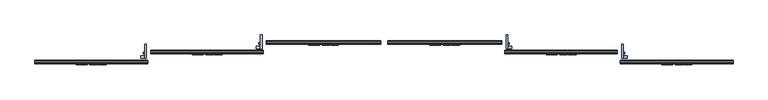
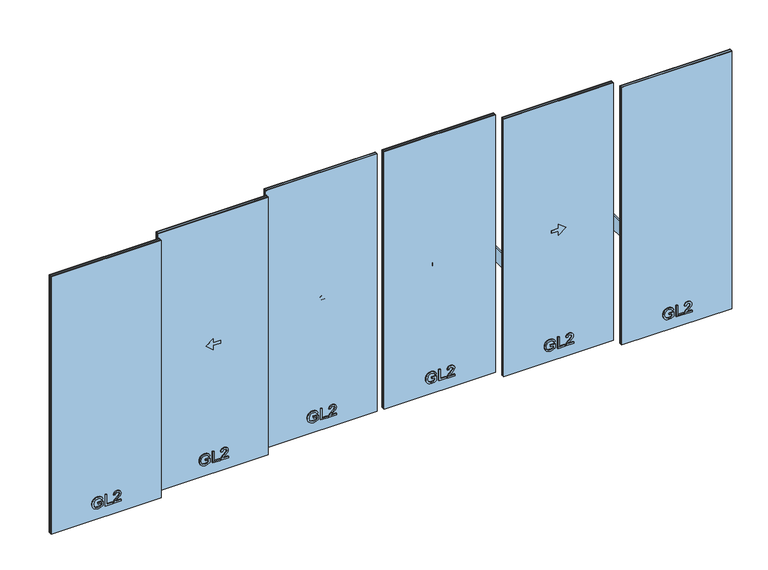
"""IFC4 building model written with IfcOpenShell, lengths in millimetres: window geometry, XL_XHS-9-3E_Metaglas : XL_XHS-9-3E_Metaglas."""

from ifc_helpers import new_model, si_unit, point, frame, frame_2d, origin, place, context, project, spatial, polyline, circle_curve, trimmed, segment, composite_curve, outline, extrude, source, transform, mapped, element, save


def window_fc74b0f0(model_context):
    return source(origin(), model_context, "Body", "SweptSolid", [
        extrude(outline(polyline([(1263.3, 1416.75), (1238.3, 1416.75), (1238.3, 1479.05), (1201.4, 1479.05), (1250.8, 1541.35), (1300.2, 1479.05), (1263.3, 1479.05), (1263.3, 1416.75)])), frame((0.0, 56.8, 0.0), z_axis=(0.0, 1.0, 0.0), x_axis=(0.0, 0.0, 1.0)), (0.0, 0.0, 1.0), 10.0),
        extrude(outline(polyline([(1009.55, 82.8), (1948.55, 82.8), (1948.55, 79.8), (1009.55, 79.8), (1009.55, 82.8)])), frame((0.0, 0.0, 85.6), z_axis=(0.0, 0.0, 1.0), x_axis=(1.0, 0.0, 0.0)), (0.0, 0.0, 1.0), 2330.4),
        extrude(outline(polyline([(1009.55, 85.8), (1948.55, 85.8), (1948.55, 82.8), (1009.55, 82.8), (1009.55, 85.8)])), frame((0.0, 0.0, 85.6), z_axis=(0.0, 0.0, 1.0), x_axis=(1.0, 0.0, 0.0)), (0.0, 0.0, 1.0), 2330.4),
        extrude(outline(polyline([(1009.55, 59.8), (1948.55, 59.8), (1948.55, 56.8), (1009.55, 56.8), (1009.55, 59.8)])), frame((0.0, 0.0, 85.6), z_axis=(0.0, 0.0, 1.0), x_axis=(1.0, 0.0, 0.0)), (0.0, 0.0, 1.0), 2330.4),
        extrude(outline(polyline([(1009.55, 62.8), (1948.55, 62.8), (1948.55, 59.8), (1009.55, 59.8), (1009.55, 62.8)])), frame((0.0, 0.0, 85.6), z_axis=(0.0, 0.0, 1.0), x_axis=(1.0, 0.0, 0.0)), (0.0, 0.0, 1.0), 2330.4),
        extrude(outline(polyline([(224.3483029, 1406.0622122), (224.3483029, 1434.3155494), (206.1994578, 1434.3155494), (199.3200645, 1421.5990951), (196.0949657, 1404.4190059), (200.3746595, 1385.2768794), (213.4712586, 1371.5426183), (235.3602373, 1366.821466), (255.0787122, 1370.7455406), (264.7540087, 1377.208001), (271.8663939, 1388.146359), (274.576458, 1404.2228022), (272.0625977, 1418.3372081), (265.3671454, 1428.1228691), (253.754337, 1433.8495655), (257.0162241, 1445.4255856), (273.6322275, 1437.8349538), (283.5650414, 1424.0639045), (287.1334967, 1404.4190059), (285.5945237, 1390.3291255), (280.9776047, 1377.9805532), (273.1938348, 1367.8423385), (262.1543093, 1360.3835311), (248.9933309, 1355.7942032), (234.8452025, 1354.2644272), (220.7982416, 1355.8003346), (208.1369696, 1360.4080566), (197.5818221, 1368.0293452), (189.8532345, 1378.6059526), (185.1167538, 1391.3377353), (183.5379269, 1405.42455), (187.5110524, 1426.7249176), (199.3568527, 1446.8725882), (236.9053417, 1446.8725882), (236.9053417, 1406.0622122), (224.3483029, 1406.0622122)])), frame((0.0, 46.8, 0.0), z_axis=(0.0, 1.0, 0.0), x_axis=(0.0, 0.0, 1.0)), (0.0, 0.0, 1.0), 10.0),
        extrude(outline(polyline([(185.1075567, 1467.2777762), (185.1075567, 1530.06297), (197.6645955, 1530.06297), (197.6645955, 1479.8348149), (285.5638669, 1479.8348149), (285.5638669, 1467.2777762), (185.1075567, 1467.2777762)])), frame((0.0, 46.8, 0.0), z_axis=(0.0, 1.0, 0.0), x_axis=(0.0, 0.0, 1.0)), (0.0, 0.0, 1.0), 10.0),
        extrude(outline(polyline([(197.6645955, 1603.8355728), (197.6645955, 1554.5148599), (204.0534795, 1560.1802427), (216.1322717, 1574.6257423), (233.3368863, 1592.6151719), (245.6486704, 1600.0341255), (257.5557843, 1602.2659429), (268.506405, 1600.1966067), (277.5195139, 1593.988598), (283.5527787, 1584.2305281), (285.5638669, 1571.5110081), (283.7551137, 1558.8834586), (278.3288543, 1549.1069946), (269.4567669, 1542.5249726), (257.3105297, 1539.4807491), (255.7408998, 1552.0377878), (268.4205659, 1557.3230258), (273.0068281, 1571.241228), (268.3102013, 1584.5953444), (256.7954949, 1589.7089041), (242.5707244, 1584.3010388), (221.6505016, 1562.6327893), (207.0946373, 1546.8997026), (193.7650464, 1539.2600199), (185.1075567, 1537.9111192), (185.1075567, 1603.8355728), (197.6645955, 1603.8355728)])), frame((0.0, 46.8, 0.0), z_axis=(0.0, 1.0, 0.0), x_axis=(0.0, 0.0, 1.0)), (0.0, 0.0, 1.0), 10.0),
        extrude(outline(polyline([(2416.0, 1948.55), (2416.0, 1009.55), (85.6, 1009.55), (85.6, 1948.55), (2416.0, 1948.55)]), holes=[polyline([(98.6, 1935.55), (98.6, 1022.55), (2403.0, 1022.55), (2403.0, 1935.55), (98.6, 1935.55)])]), frame((0.0, 62.8, 0.0), z_axis=(0.0, 1.0, 0.0), x_axis=(0.0, 0.0, 1.0)), (0.0, 0.0, 1.0), 17.0),
        extrude(outline(polyline([(1009.55, 62.8), (1948.55, 62.8), (1948.55, 56.8), (1009.55, 56.8), (1009.55, 62.8)])), frame((0.0, 0.0, 85.6), z_axis=(0.0, 0.0, 1.0), x_axis=(1.0, 0.0, 0.0)), (0.0, 0.0, 1.0), 2330.4),
        extrude(outline(composite_curve([segment(trimmed(circle_curve(frame_2d((27.9933183, 1063.3761618)), 10.0), [point((17.9933183, 1063.3761618))], [point((37.9933183, 1063.3761618))], False, "CARTESIAN"), True, "CONTINUOUS"), segment(trimmed(circle_curve(frame_2d((27.9933183, 1063.3761618)), 10.0), [point((37.9933183, 1063.3761618))], [point((17.9933183, 1063.3761618))], False, "CARTESIAN"), True, "CONTINUOUS")], self_intersect=False)), frame((1999.3, 0.0, 0.0), z_axis=(1.0, 0.0, 0.0), x_axis=(0.0, 1.0, 0.0)), (0.0, 0.0, 1.0), 33.0),
        extrude(outline(polyline([(1999.3, 53.9933183), (1999.3, 67.9933183), (2012.3, 67.9933183), (2012.3, 53.9933183), (1999.3, 53.9933183)])), frame((0.0, 0.0, 1080.3761618), z_axis=(0.0, 0.0, 1.0), x_axis=(1.0, 0.0, 0.0)), (0.0, 0.0, 1.0), 65.0),
        extrude(outline(polyline([(1999.3, 132.9933183), (1999.3, 15.9933183), (1985.3, 15.9933183), (1985.3, 132.9933183), (1999.3, 132.9933183)])), frame((0.0, 0.0, 1037.8761618), z_axis=(0.0, 0.0, 1.0), x_axis=(1.0, 0.0, 0.0)), (0.0, 0.0, 1.0), 127.0),
        extrude(outline(polyline([(1238.3, -1415.65), (1263.3, -1415.65), (1263.3, -1477.95), (1300.2, -1477.95), (1250.8, -1540.25), (1201.4, -1477.95), (1238.3, -1477.95), (1238.3, -1415.65)])), frame((0.0, 56.8013279, 0.0), z_axis=(0.0, 1.0, 0.0), x_axis=(0.0, 0.0, 1.0)), (0.0, 0.0, 1.0), 10.0),
        extrude(outline(composite_curve([segment(trimmed(circle_curve(frame_2d((27.9835782, 1063.3761618)), 10.0), [point((17.9835782, 1063.3761618))], [point((37.9835782, 1063.3761618))], False, "CARTESIAN"), True, "CONTINUOUS"), segment(trimmed(circle_curve(frame_2d((27.9835782, 1063.3761618)), 10.0), [point((37.9835782, 1063.3761618))], [point((17.9835782, 1063.3761618))], False, "CARTESIAN"), True, "CONTINUOUS")], self_intersect=False)), frame((-2032.3, 0.0, 0.0), z_axis=(1.0, 0.0, 0.0), x_axis=(0.0, 1.0, 0.0)), (0.0, 0.0, 1.0), 33.0),
        extrude(outline(polyline([(-1999.3, 67.9835782), (-1999.3, 53.9835782), (-2012.3, 53.9835782), (-2012.3, 67.9835782), (-1999.3, 67.9835782)])), frame((0.0, 0.0, 1080.3761618), z_axis=(0.0, 0.0, 1.0), x_axis=(1.0, 0.0, 0.0)), (0.0, 0.0, 1.0), 65.0),
        extrude(outline(polyline([(-1985.3, 132.9835782), (-1985.3, 15.9835782), (-1999.3, 15.9835782), (-1999.3, 132.9835782), (-1985.3, 132.9835782)])), frame((0.0, 0.0, 1037.8761618), z_axis=(0.0, 0.0, 1.0), x_axis=(1.0, 0.0, 0.0)), (0.0, 0.0, 1.0), 127.0),
        extrude(outline(polyline([(-1948.55, 82.8013279), (-1007.35, 82.8013279), (-1007.35, 79.8013279), (-1948.55, 79.8013279), (-1948.55, 82.8013279)])), frame((0.0, 0.0, 85.6), z_axis=(0.0, 0.0, 1.0), x_axis=(1.0, 0.0, 0.0)), (0.0, 0.0, 1.0), 2330.4),
        extrude(outline(polyline([(-1948.55, 85.8013279), (-1007.35, 85.8013279), (-1007.35, 82.8013279), (-1948.55, 82.8013279), (-1948.55, 85.8013279)])), frame((0.0, 0.0, 85.6), z_axis=(0.0, 0.0, 1.0), x_axis=(1.0, 0.0, 0.0)), (0.0, 0.0, 1.0), 2330.4),
        extrude(outline(polyline([(-1948.55, 59.8013279), (-1007.35, 59.8013279), (-1007.35, 56.8013279), (-1948.55, 56.8013279), (-1948.55, 59.8013279)])), frame((0.0, 0.0, 85.6), z_axis=(0.0, 0.0, 1.0), x_axis=(1.0, 0.0, 0.0)), (0.0, 0.0, 1.0), 2330.4),
        extrude(outline(polyline([(-1948.55, 62.8013279), (-1007.35, 62.8013279), (-1007.35, 59.8013279), (-1948.55, 59.8013279), (-1948.55, 62.8013279)])), frame((0.0, 0.0, 85.6), z_axis=(0.0, 0.0, 1.0), x_axis=(1.0, 0.0, 0.0)), (0.0, 0.0, 1.0), 2330.4),
        extrude(outline(polyline([(224.3483029, -1550.9377878), (224.3483029, -1522.6844506), (206.1994578, -1522.6844506), (199.3200645, -1535.4009049), (196.0949657, -1552.5809941), (200.3746595, -1571.7231206), (213.4712586, -1585.4573817), (235.3602373, -1590.178534), (255.0787122, -1586.2544594), (264.7540087, -1579.791999), (271.8663939, -1568.853641), (274.576458, -1552.7771978), (272.0625977, -1538.6627919), (265.3671454, -1528.8771309), (253.754337, -1523.1504345), (257.0162241, -1511.5744144), (273.6322275, -1519.1650462), (283.5650414, -1532.9360955), (287.1334967, -1552.5809941), (285.5945237, -1566.6708745), (280.9776047, -1579.0194468), (273.1938348, -1589.1576615), (262.1543093, -1596.6164689), (248.9933309, -1601.2057968), (234.8452025, -1602.7355728), (220.7982416, -1601.1996654), (208.1369696, -1596.5919434), (197.5818221, -1588.9706548), (189.8532345, -1578.3940474), (185.1167538, -1565.6622647), (183.5379269, -1551.57545), (187.5110524, -1530.2750824), (199.3568527, -1510.1274118), (236.9053417, -1510.1274118), (236.9053417, -1550.9377878), (224.3483029, -1550.9377878)])), frame((0.0, 46.8013279, 0.0), z_axis=(0.0, 1.0, 0.0), x_axis=(0.0, 0.0, 1.0)), (0.0, 0.0, 1.0), 10.0),
        extrude(outline(polyline([(185.1075567, -1489.7222238), (185.1075567, -1426.93703), (197.6645955, -1426.93703), (197.6645955, -1477.1651851), (285.5638669, -1477.1651851), (285.5638669, -1489.7222238), (185.1075567, -1489.7222238)])), frame((0.0, 46.8013279, 0.0), z_axis=(0.0, 1.0, 0.0), x_axis=(0.0, 0.0, 1.0)), (0.0, 0.0, 1.0), 10.0),
        extrude(outline(polyline([(197.6645955, -1353.1644272), (197.6645955, -1402.4851401), (204.0534795, -1396.8197573), (216.1322717, -1382.3742577), (233.3368863, -1364.3848281), (245.6486704, -1356.9658745), (257.5557843, -1354.7340571), (268.506405, -1356.8033933), (277.5195139, -1363.011402), (283.5527787, -1372.7694719), (285.5638669, -1385.4889919), (283.7551137, -1398.1165414), (278.3288543, -1407.8930054), (269.4567669, -1414.4750274), (257.3105297, -1417.5192509), (255.7408998, -1404.9622122), (268.4205659, -1399.6769742), (273.0068281, -1385.758772), (268.3102013, -1372.4046556), (256.7954949, -1367.2910959), (242.5707244, -1372.6989612), (221.6505016, -1394.3672107), (207.0946373, -1410.1002974), (193.7650464, -1417.7399801), (185.1075567, -1419.0888808), (185.1075567, -1353.1644272), (197.6645955, -1353.1644272)])), frame((0.0, 46.8013279, 0.0), z_axis=(0.0, 1.0, 0.0), x_axis=(0.0, 0.0, 1.0)), (0.0, 0.0, 1.0), 10.0),
        extrude(outline(polyline([(2416.0, -1007.35), (2416.0, -1948.55), (85.6, -1948.55), (85.6, -1007.35), (2416.0, -1007.35)]), holes=[polyline([(98.6, -1020.35), (98.6, -1935.55), (2403.0, -1935.55), (2403.0, -1020.35), (98.6, -1020.35)])]), frame((0.0, 62.8013279, 0.0), z_axis=(0.0, 1.0, 0.0), x_axis=(0.0, 0.0, 1.0)), (0.0, 0.0, 1.0), 17.0),
        extrude(outline(polyline([(-1948.55, 62.8013279), (-1007.35, 62.8013279), (-1007.35, 56.8013279), (-1948.55, 56.8013279), (-1948.55, 62.8013279)])), frame((0.0, 0.0, 85.6), z_axis=(0.0, 0.0, 1.0), x_axis=(1.0, 0.0, 0.0)), (0.0, 0.0, 1.0), 2330.4),
        extrude(outline(polyline([(1974.05, -2.0486721), (2916.0, -2.0486721), (2916.0, -5.0486721), (1974.05, -5.0486721), (1974.05, -2.0486721)])), frame((0.0, 0.0, 85.6), z_axis=(0.0, 0.0, 1.0), x_axis=(1.0, 0.0, 0.0)), (0.0, 0.0, 1.0), 2330.4),
        extrude(outline(polyline([(1974.05, 0.9513279), (2916.0, 0.9513279), (2916.0, -2.0486721), (1974.05, -2.0486721), (1974.05, 0.9513279)])), frame((0.0, 0.0, 85.6), z_axis=(0.0, 0.0, 1.0), x_axis=(1.0, 0.0, 0.0)), (0.0, 0.0, 1.0), 2330.4),
        extrude(outline(polyline([(1974.05, -25.0486721), (2916.0, -25.0486721), (2916.0, -28.0486721), (1974.05, -28.0486721), (1974.05, -25.0486721)])), frame((0.0, 0.0, 85.6), z_axis=(0.0, 0.0, 1.0), x_axis=(1.0, 0.0, 0.0)), (0.0, 0.0, 1.0), 2330.4),
        extrude(outline(polyline([(1974.05, -22.0486721), (2916.0, -22.0486721), (2916.0, -25.0486721), (1974.05, -25.0486721), (1974.05, -22.0486721)])), frame((0.0, 0.0, 85.6), z_axis=(0.0, 0.0, 1.0), x_axis=(1.0, 0.0, 0.0)), (0.0, 0.0, 1.0), 2330.4),
        extrude(outline(polyline([(224.3483029, 2372.0372122), (224.3483029, 2400.2905494), (206.1994578, 2400.2905494), (199.3200645, 2387.5740951), (196.0949657, 2370.3940059), (200.3746595, 2351.2518794), (213.4712586, 2337.5176183), (235.3602373, 2332.796466), (255.0787122, 2336.7205406), (264.7540087, 2343.183001), (271.8663939, 2354.121359), (274.576458, 2370.1978022), (272.0625977, 2384.3122081), (265.3671454, 2394.0978691), (253.754337, 2399.8245655), (257.0162241, 2411.4005856), (273.6322275, 2403.8099538), (283.5650414, 2390.0389045), (287.1334967, 2370.3940059), (285.5945237, 2356.3041255), (280.9776047, 2343.9555532), (273.1938348, 2333.8173385), (262.1543093, 2326.3585311), (248.9933309, 2321.7692032), (234.8452025, 2320.2394272), (220.7982416, 2321.7753346), (208.1369696, 2326.3830566), (197.5818221, 2334.0043452), (189.8532345, 2344.5809526), (185.1167538, 2357.3127353), (183.5379269, 2371.39955), (187.5110524, 2392.6999176), (199.3568527, 2412.8475882), (236.9053417, 2412.8475882), (236.9053417, 2372.0372122), (224.3483029, 2372.0372122)])), frame((0.0, -38.0486721, 0.0), z_axis=(0.0, 1.0, 0.0), x_axis=(0.0, 0.0, 1.0)), (0.0, 0.0, 1.0), 10.0),
        extrude(outline(polyline([(185.1075567, 2433.2527762), (185.1075567, 2496.03797), (197.6645955, 2496.03797), (197.6645955, 2445.8098149), (285.5638669, 2445.8098149), (285.5638669, 2433.2527762), (185.1075567, 2433.2527762)])), frame((0.0, -38.0486721, 0.0), z_axis=(0.0, 1.0, 0.0), x_axis=(0.0, 0.0, 1.0)), (0.0, 0.0, 1.0), 10.0),
        extrude(outline(polyline([(197.6645955, 2569.8105728), (197.6645955, 2520.4898599), (204.0534795, 2526.1552427), (216.1322717, 2540.6007423), (233.3368863, 2558.5901719), (245.6486704, 2566.0091255), (257.5557843, 2568.2409429), (268.506405, 2566.1716067), (277.5195139, 2559.963598), (283.5527787, 2550.2055281), (285.5638669, 2537.4860081), (283.7551137, 2524.8584586), (278.3288543, 2515.0819946), (269.4567669, 2508.4999726), (257.3105297, 2505.4557491), (255.7408998, 2518.0127878), (268.4205659, 2523.2980258), (273.0068281, 2537.216228), (268.3102013, 2550.5703444), (256.7954949, 2555.6839041), (242.5707244, 2550.2760388), (221.6505016, 2528.6077893), (207.0946373, 2512.8747026), (193.7650464, 2505.2350199), (185.1075567, 2503.8861192), (185.1075567, 2569.8105728), (197.6645955, 2569.8105728)])), frame((0.0, -38.0486721, 0.0), z_axis=(0.0, 1.0, 0.0), x_axis=(0.0, 0.0, 1.0)), (0.0, 0.0, 1.0), 10.0),
        extrude(outline(polyline([(2416.0, 2916.0), (2416.0, 1974.05), (85.6, 1974.05), (85.6, 2916.0), (2416.0, 2916.0)]), holes=[polyline([(98.6, 2903.0), (98.6, 1987.05), (2403.0, 1987.05), (2403.0, 2903.0), (98.6, 2903.0)])]), frame((0.0, -22.0486721, 0.0), z_axis=(0.0, 1.0, 0.0), x_axis=(0.0, 0.0, 1.0)), (0.0, 0.0, 1.0), 17.0),
        extrude(outline(polyline([(1974.05, -22.0486721), (2916.0, -22.0486721), (2916.0, -28.0486721), (1974.05, -28.0486721), (1974.05, -22.0486721)])), frame((0.0, 0.0, 85.6), z_axis=(0.0, 0.0, 1.0), x_axis=(1.0, 0.0, 0.0)), (0.0, 0.0, 1.0), 2330.4),
        extrude(outline(polyline([(31.35, 162.4), (984.05, 162.4), (984.05, 159.4), (31.35, 159.4), (31.35, 162.4)])), frame((0.0, 0.0, 85.6), z_axis=(0.0, 0.0, 1.0), x_axis=(1.0, 0.0, 0.0)), (0.0, 0.0, 1.0), 2330.4),
        extrude(outline(polyline([(31.35, 165.4), (984.05, 165.4), (984.05, 162.4), (31.35, 162.4), (31.35, 165.4)])), frame((0.0, 0.0, 85.6), z_axis=(0.0, 0.0, 1.0), x_axis=(1.0, 0.0, 0.0)), (0.0, 0.0, 1.0), 2330.4),
        extrude(outline(polyline([(31.35, 139.4), (984.05, 139.4), (984.05, 136.4), (31.35, 136.4), (31.35, 139.4)])), frame((0.0, 0.0, 85.6), z_axis=(0.0, 0.0, 1.0), x_axis=(1.0, 0.0, 0.0)), (0.0, 0.0, 1.0), 2330.4),
        extrude(outline(polyline([(31.35, 142.4), (984.05, 142.4), (984.05, 139.4), (31.35, 139.4), (31.35, 142.4)])), frame((0.0, 0.0, 85.6), z_axis=(0.0, 0.0, 1.0), x_axis=(1.0, 0.0, 0.0)), (0.0, 0.0, 1.0), 2330.4),
        extrude(outline(polyline([(224.3483029, 434.7122122), (224.3483029, 462.9655494), (206.1994578, 462.9655494), (199.3200645, 450.2490951), (196.0949657, 433.0690059), (200.3746595, 413.9268794), (213.4712586, 400.1926183), (235.3602373, 395.471466), (255.0787122, 399.3955406), (264.7540087, 405.858001), (271.8663939, 416.796359), (274.576458, 432.8728022), (272.0625977, 446.9872081), (265.3671454, 456.7728691), (253.754337, 462.4995655), (257.0162241, 474.0755856), (273.6322275, 466.4849538), (283.5650414, 452.7139045), (287.1334967, 433.0690059), (285.5945237, 418.9791255), (280.9776047, 406.6305532), (273.1938348, 396.4923385), (262.1543093, 389.0335311), (248.9933309, 384.4442032), (234.8452025, 382.9144272), (220.7982416, 384.4503346), (208.1369696, 389.0580566), (197.5818221, 396.6793452), (189.8532345, 407.2559526), (185.1167538, 419.9877353), (183.5379269, 434.07455), (187.5110524, 455.3749176), (199.3568527, 475.5225882), (236.9053417, 475.5225882), (236.9053417, 434.7122122), (224.3483029, 434.7122122)])), frame((0.0, 126.4, 0.0), z_axis=(0.0, 1.0, 0.0), x_axis=(0.0, 0.0, 1.0)), (0.0, 0.0, 1.0), 10.0),
        extrude(outline(polyline([(185.1075567, 495.9277762), (185.1075567, 558.71297), (197.6645955, 558.71297), (197.6645955, 508.4848149), (285.5638669, 508.4848149), (285.5638669, 495.9277762), (185.1075567, 495.9277762)])), frame((0.0, 126.4, 0.0), z_axis=(0.0, 1.0, 0.0), x_axis=(0.0, 0.0, 1.0)), (0.0, 0.0, 1.0), 10.0),
        extrude(outline(polyline([(197.6645955, 632.4855728), (197.6645955, 583.1648599), (204.0534795, 588.8302427), (216.1322717, 603.2757423), (233.3368863, 621.2651719), (245.6486704, 628.6841255), (257.5557843, 630.9159429), (268.506405, 628.8466067), (277.5195139, 622.638598), (283.5527787, 612.8805281), (285.5638669, 600.1610081), (283.7551137, 587.5334586), (278.3288543, 577.7569946), (269.4567669, 571.1749726), (257.3105297, 568.1307491), (255.7408998, 580.6877878), (268.4205659, 585.9730258), (273.0068281, 599.891228), (268.3102013, 613.2453444), (256.7954949, 618.3589041), (242.5707244, 612.9510388), (221.6505016, 591.2827893), (207.0946373, 575.5497026), (193.7650464, 567.9100199), (185.1075567, 566.5611192), (185.1075567, 632.4855728), (197.6645955, 632.4855728)])), frame((0.0, 126.4, 0.0), z_axis=(0.0, 1.0, 0.0), x_axis=(0.0, 0.0, 1.0)), (0.0, 0.0, 1.0), 10.0),
        extrude(outline(polyline([(2416.0, 984.05), (2416.0, 31.35), (85.6, 31.35), (85.6, 984.05), (2416.0, 984.05)]), holes=[polyline([(98.6, 971.05), (98.6, 44.35), (2403.0, 44.35), (2403.0, 971.05), (98.6, 971.05)])]), frame((0.0, 142.4, 0.0), z_axis=(0.0, 1.0, 0.0), x_axis=(0.0, 0.0, 1.0)), (0.0, 0.0, 1.0), 17.0),
        extrude(outline(polyline([(31.35, 142.4), (984.05, 142.4), (984.05, 136.4), (31.35, 136.4), (31.35, 142.4)])), frame((0.0, 0.0, 85.6), z_axis=(0.0, 0.0, 1.0), x_axis=(1.0, 0.0, 0.0)), (0.0, 0.0, 1.0), 2330.4),
        extrude(outline(composite_curve([segment(trimmed(circle_curve(frame_2d((107.5933183, 1063.3761618)), 10.0), [point((97.5933183, 1063.3761618))], [point((117.5933183, 1063.3761618))], False, "CARTESIAN"), True, "CONTINUOUS"), segment(trimmed(circle_curve(frame_2d((107.5933183, 1063.3761618)), 10.0), [point((117.5933183, 1063.3761618))], [point((97.5933183, 1063.3761618))], False, "CARTESIAN"), True, "CONTINUOUS")], self_intersect=False)), frame((1034.8, 0.0, 0.0), z_axis=(1.0, 0.0, 0.0), x_axis=(0.0, 1.0, 0.0)), (0.0, 0.0, 1.0), 33.0),
        extrude(outline(polyline([(1034.8, 133.5933183), (1034.8, 147.5933183), (1047.8, 147.5933183), (1047.8, 133.5933183), (1034.8, 133.5933183)])), frame((0.0, 0.0, 1080.3761618), z_axis=(0.0, 0.0, 1.0), x_axis=(1.0, 0.0, 0.0)), (0.0, 0.0, 1.0), 65.0),
        extrude(outline(polyline([(1034.8, 212.5933183), (1034.8, 95.5933183), (1020.8, 95.5933183), (1020.8, 212.5933183), (1034.8, 212.5933183)])), frame((0.0, 0.0, 1037.8761618), z_axis=(0.0, 0.0, 1.0), x_axis=(1.0, 0.0, 0.0)), (0.0, 0.0, 1.0), 127.0),
        extrude(outline(polyline([(1310.8, 2425.025), (1270.8, 2425.025), (1270.8, 2385.025), (1230.8, 2385.025), (1230.8, 2425.025), (1190.8, 2425.025), (1190.8, 2465.025), (1230.8, 2465.025), (1230.8, 2505.025), (1270.8, 2505.025), (1270.8, 2465.025), (1310.8, 2465.025), (1310.8, 2425.025)])), frame((0.0, -21.2986721, 0.0), z_axis=(0.0, 1.0, 0.0), x_axis=(0.0, 0.0, 1.0)), (0.0, 0.0, 1.0), 10.0),
        extrude(outline(polyline([(1263.3, 445.4), (1238.3, 445.4), (1238.3, 507.7), (1201.4, 507.7), (1250.8, 570.0), (1300.2, 507.7), (1263.3, 507.7), (1263.3, 445.4)])), frame((0.0, 137.9013279, 0.0), z_axis=(0.0, 1.0, 0.0), x_axis=(0.0, 0.0, 1.0)), (0.0, 0.0, 1.0), 10.0),
        extrude(outline(composite_curve([segment(trimmed(circle_curve(frame_2d((107.5822502, 1063.3761618)), 10.0), [point((97.5822502, 1063.3761618))], [point((117.5822502, 1063.3761618))], False, "CARTESIAN"), True, "CONTINUOUS"), segment(trimmed(circle_curve(frame_2d((107.5822502, 1063.3761618)), 10.0), [point((117.5822502, 1063.3761618))], [point((97.5822502, 1063.3761618))], False, "CARTESIAN"), True, "CONTINUOUS")], self_intersect=False)), frame((-1065.6, 0.0, 0.0), z_axis=(1.0, 0.0, 0.0), x_axis=(0.0, 1.0, 0.0)), (0.0, 0.0, 1.0), 33.0),
        extrude(outline(polyline([(-1032.6, 147.5822502), (-1032.6, 133.5822502), (-1045.6, 133.5822502), (-1045.6, 147.5822502), (-1032.6, 147.5822502)])), frame((0.0, 0.0, 1080.3761618), z_axis=(0.0, 0.0, 1.0), x_axis=(1.0, 0.0, 0.0)), (0.0, 0.0, 1.0), 65.0),
        extrude(outline(polyline([(-1018.6, 212.5822502), (-1018.6, 95.5822502), (-1032.6, 95.5822502), (-1032.6, 212.5822502), (-1018.6, 212.5822502)])), frame((0.0, 0.0, 1037.8761618), z_axis=(0.0, 0.0, 1.0), x_axis=(1.0, 0.0, 0.0)), (0.0, 0.0, 1.0), 127.0),
        extrude(outline(polyline([(-981.85, 162.4), (-29.15, 162.4), (-29.15, 159.4), (-981.85, 159.4), (-981.85, 162.4)])), frame((0.0, 0.0, 85.6), z_axis=(0.0, 0.0, 1.0), x_axis=(1.0, 0.0, 0.0)), (0.0, 0.0, 1.0), 2330.4),
        extrude(outline(polyline([(-981.85, 165.4), (-29.15, 165.4), (-29.15, 162.4), (-981.85, 162.4), (-981.85, 165.4)])), frame((0.0, 0.0, 85.6), z_axis=(0.0, 0.0, 1.0), x_axis=(1.0, 0.0, 0.0)), (0.0, 0.0, 1.0), 2330.4),
        extrude(outline(polyline([(-981.85, 139.4), (-29.15, 139.4), (-29.15, 136.4), (-981.85, 136.4), (-981.85, 139.4)])), frame((0.0, 0.0, 85.6), z_axis=(0.0, 0.0, 1.0), x_axis=(1.0, 0.0, 0.0)), (0.0, 0.0, 1.0), 2330.4),
        extrude(outline(polyline([(-981.85, 142.4), (-29.15, 142.4), (-29.15, 139.4), (-981.85, 139.4), (-981.85, 142.4)])), frame((0.0, 0.0, 85.6), z_axis=(0.0, 0.0, 1.0), x_axis=(1.0, 0.0, 0.0)), (0.0, 0.0, 1.0), 2330.4),
        extrude(outline(polyline([(224.3483029, -578.4877878), (224.3483029, -550.2344506), (206.1994578, -550.2344506), (199.3200645, -562.9509049), (196.0949657, -580.1309941), (200.3746595, -599.2731206), (213.4712586, -613.0073817), (235.3602373, -617.728534), (255.0787122, -613.8044594), (264.7540087, -607.341999), (271.8663939, -596.403641), (274.576458, -580.3271978), (272.0625977, -566.2127919), (265.3671454, -556.4271309), (253.754337, -550.7004345), (257.0162241, -539.1244144), (273.6322275, -546.7150462), (283.5650414, -560.4860955), (287.1334967, -580.1309941), (285.5945237, -594.2208745), (280.9776047, -606.5694468), (273.1938348, -616.7076615), (262.1543093, -624.1664689), (248.9933309, -628.7557968), (234.8452025, -630.2855728), (220.7982416, -628.7496654), (208.1369696, -624.1419434), (197.5818221, -616.5206548), (189.8532345, -605.9440474), (185.1167538, -593.2122647), (183.5379269, -579.12545), (187.5110524, -557.8250824), (199.3568527, -537.6774118), (236.9053417, -537.6774118), (236.9053417, -578.4877878), (224.3483029, -578.4877878)])), frame((0.0, 126.4, 0.0), z_axis=(0.0, 1.0, 0.0), x_axis=(0.0, 0.0, 1.0)), (0.0, 0.0, 1.0), 10.0),
        extrude(outline(polyline([(185.1075567, -517.2722238), (185.1075567, -454.48703), (197.6645955, -454.48703), (197.6645955, -504.7151851), (285.5638669, -504.7151851), (285.5638669, -517.2722238), (185.1075567, -517.2722238)])), frame((0.0, 126.4, 0.0), z_axis=(0.0, 1.0, 0.0), x_axis=(0.0, 0.0, 1.0)), (0.0, 0.0, 1.0), 10.0),
        extrude(outline(polyline([(197.6645955, -380.7144272), (197.6645955, -430.0351401), (204.0534795, -424.3697573), (216.1322717, -409.9242577), (233.3368863, -391.9348281), (245.6486704, -384.5158745), (257.5557843, -382.2840571), (268.506405, -384.3533933), (277.5195139, -390.561402), (283.5527787, -400.3194719), (285.5638669, -413.0389919), (283.7551137, -425.6665414), (278.3288543, -435.4430054), (269.4567669, -442.0250274), (257.3105297, -445.0692509), (255.7408998, -432.5122122), (268.4205659, -427.2269742), (273.0068281, -413.308772), (268.3102013, -399.9546556), (256.7954949, -394.8410959), (242.5707244, -400.2489612), (221.6505016, -421.9172107), (207.0946373, -437.6502974), (193.7650464, -445.2899801), (185.1075567, -446.6388808), (185.1075567, -380.7144272), (197.6645955, -380.7144272)])), frame((0.0, 126.4, 0.0), z_axis=(0.0, 1.0, 0.0), x_axis=(0.0, 0.0, 1.0)), (0.0, 0.0, 1.0), 10.0),
        extrude(outline(polyline([(2416.0, -29.15), (2416.0, -981.85), (85.6, -981.85), (85.6, -29.15), (2416.0, -29.15)]), holes=[polyline([(98.6, -42.15), (98.6, -968.85), (2403.0, -968.85), (2403.0, -42.15), (98.6, -42.15)])]), frame((0.0, 142.4, 0.0), z_axis=(0.0, 1.0, 0.0), x_axis=(0.0, 0.0, 1.0)), (0.0, 0.0, 1.0), 17.0),
        extrude(outline(polyline([(-981.85, 142.4), (-29.15, 142.4), (-29.15, 136.4), (-981.85, 136.4), (-981.85, 142.4)])), frame((0.0, 0.0, 85.6), z_axis=(0.0, 0.0, 1.0), x_axis=(1.0, 0.0, 0.0)), (0.0, 0.0, 1.0), 2330.4),
        extrude(outline(polyline([(-2916.0, -2.0486721), (-1974.05, -2.0486721), (-1974.05, -5.0486721), (-2916.0, -5.0486721), (-2916.0, -2.0486721)])), frame((0.0, 0.0, 85.6), z_axis=(0.0, 0.0, 1.0), x_axis=(1.0, 0.0, 0.0)), (0.0, 0.0, 1.0), 2330.4),
        extrude(outline(polyline([(-2916.0, 0.9513279), (-1974.05, 0.9513279), (-1974.05, -2.0486721), (-2916.0, -2.0486721), (-2916.0, 0.9513279)])), frame((0.0, 0.0, 85.6), z_axis=(0.0, 0.0, 1.0), x_axis=(1.0, 0.0, 0.0)), (0.0, 0.0, 1.0), 2330.4),
        extrude(outline(polyline([(-2916.0, -25.0486721), (-1974.05, -25.0486721), (-1974.05, -28.0486721), (-2916.0, -28.0486721), (-2916.0, -25.0486721)])), frame((0.0, 0.0, 85.6), z_axis=(0.0, 0.0, 1.0), x_axis=(1.0, 0.0, 0.0)), (0.0, 0.0, 1.0), 2330.4),
        extrude(outline(polyline([(-2916.0, -22.0486721), (-1974.05, -22.0486721), (-1974.05, -25.0486721), (-2916.0, -25.0486721), (-2916.0, -22.0486721)])), frame((0.0, 0.0, 85.6), z_axis=(0.0, 0.0, 1.0), x_axis=(1.0, 0.0, 0.0)), (0.0, 0.0, 1.0), 2330.4),
        extrude(outline(polyline([(224.3483029, -2518.0127878), (224.3483029, -2489.7594506), (206.1994578, -2489.7594506), (199.3200645, -2502.4759049), (196.0949657, -2519.6559941), (200.3746595, -2538.7981206), (213.4712586, -2552.5323817), (235.3602373, -2557.253534), (255.0787122, -2553.3294594), (264.7540087, -2546.866999), (271.8663939, -2535.928641), (274.576458, -2519.8521978), (272.0625977, -2505.7377919), (265.3671454, -2495.9521309), (253.754337, -2490.2254345), (257.0162241, -2478.6494144), (273.6322275, -2486.2400462), (283.5650414, -2500.0110955), (287.1334967, -2519.6559941), (285.5945237, -2533.7458745), (280.9776047, -2546.0944468), (273.1938348, -2556.2326615), (262.1543093, -2563.6914689), (248.9933309, -2568.2807968), (234.8452025, -2569.8105728), (220.7982416, -2568.2746654), (208.1369696, -2563.6669434), (197.5818221, -2556.0456548), (189.8532345, -2545.4690474), (185.1167538, -2532.7372647), (183.5379269, -2518.65045), (187.5110524, -2497.3500824), (199.3568527, -2477.2024118), (236.9053417, -2477.2024118), (236.9053417, -2518.0127878), (224.3483029, -2518.0127878)])), frame((0.0, -38.0486721, 0.0), z_axis=(0.0, 1.0, 0.0), x_axis=(0.0, 0.0, 1.0)), (0.0, 0.0, 1.0), 10.0),
        extrude(outline(polyline([(185.1075567, -2456.7972238), (185.1075567, -2394.01203), (197.6645955, -2394.01203), (197.6645955, -2444.2401851), (285.5638669, -2444.2401851), (285.5638669, -2456.7972238), (185.1075567, -2456.7972238)])), frame((0.0, -38.0486721, 0.0), z_axis=(0.0, 1.0, 0.0), x_axis=(0.0, 0.0, 1.0)), (0.0, 0.0, 1.0), 10.0),
        extrude(outline(polyline([(197.6645955, -2320.2394272), (197.6645955, -2369.5601401), (204.0534795, -2363.8947573), (216.1322717, -2349.4492577), (233.3368863, -2331.4598281), (245.6486704, -2324.0408745), (257.5557843, -2321.8090571), (268.506405, -2323.8783933), (277.5195139, -2330.086402), (283.5527787, -2339.8444719), (285.5638669, -2352.5639919), (283.7551137, -2365.1915414), (278.3288543, -2374.9680054), (269.4567669, -2381.5500274), (257.3105297, -2384.5942509), (255.7408998, -2372.0372122), (268.4205659, -2366.7519742), (273.0068281, -2352.833772), (268.3102013, -2339.4796556), (256.7954949, -2334.3660959), (242.5707244, -2339.7739612), (221.6505016, -2361.4422107), (207.0946373, -2377.1752974), (193.7650464, -2384.8149801), (185.1075567, -2386.1638808), (185.1075567, -2320.2394272), (197.6645955, -2320.2394272)])), frame((0.0, -38.0486721, 0.0), z_axis=(0.0, 1.0, 0.0), x_axis=(0.0, 0.0, 1.0)), (0.0, 0.0, 1.0), 10.0),
        extrude(outline(polyline([(2416.0, -1974.05), (2416.0, -2916.0), (85.6, -2916.0), (85.6, -1974.05), (2416.0, -1974.05)]), holes=[polyline([(98.6, -1987.05), (98.6, -2903.0), (2403.0, -2903.0), (2403.0, -1987.05), (98.6, -1987.05)])]), frame((0.0, -22.0486721, 0.0), z_axis=(0.0, 1.0, 0.0), x_axis=(0.0, 0.0, 1.0)), (0.0, 0.0, 1.0), 17.0),
        extrude(outline(polyline([(-2916.0, -22.0486721), (-1974.05, -22.0486721), (-1974.05, -28.0486721), (-2916.0, -28.0486721), (-2916.0, -22.0486721)])), frame((0.0, 0.0, 85.6), z_axis=(0.0, 0.0, 1.0), x_axis=(1.0, 0.0, 0.0)), (0.0, 0.0, 1.0), 2330.4),
        extrude(outline(polyline([(1263.3, -443.2), (1263.3, -505.5), (1300.2, -505.5), (1250.8, -567.8), (1201.4, -505.5), (1238.3, -505.5), (1238.3, -443.2), (1263.3, -443.2)])), frame((0.0, 137.9013279, 0.0), z_axis=(0.0, 1.0, 0.0), x_axis=(0.0, 0.0, 1.0)), (0.0, 0.0, 1.0), 10.0),
        extrude(outline(polyline([(1310.8, -2465.025), (1270.8, -2465.025), (1270.8, -2505.025), (1230.8, -2505.025), (1230.8, -2465.025), (1190.8, -2465.025), (1190.8, -2425.025), (1230.8, -2425.025), (1230.8, -2385.025), (1270.8, -2385.025), (1270.8, -2425.025), (1310.8, -2425.025), (1310.8, -2465.025)])), frame((0.0, -21.2986721, 0.0), z_axis=(0.0, 1.0, 0.0), x_axis=(0.0, 0.0, 1.0)), (0.0, 0.0, 1.0), 10.0),
    ])


if __name__ == "__main__":
    model = new_model("IFC4")
    model_context = context("Model", 3, world=origin())
    ifc_project = project(units=[si_unit("LENGTHUNIT", "METRE", prefix="MILLI")], contexts=[model_context])
    site = spatial("IfcSite", under=ifc_project)
    building = spatial("IfcBuilding", under=site)
    placement = place(None, origin())
    window_shape = window_fc74b0f0(model_context)
    element("IfcWindow", 1, ObjectType="XL_XHS-9-3E_Metaglas : XL_XHS-9-3E_Metaglas", at=placement, inside=building, context=model_context, shape_type="MappedRepresentation", body=[
        mapped(window_shape, transform((0.0, 0.0, 0.0), x_axis=(1.0, 0.0, 0.0), y_axis=(0.0, 1.0, 0.0), z_axis=(0.0, 0.0, 1.0))),
    ])
    save(model, "model.ifc")
